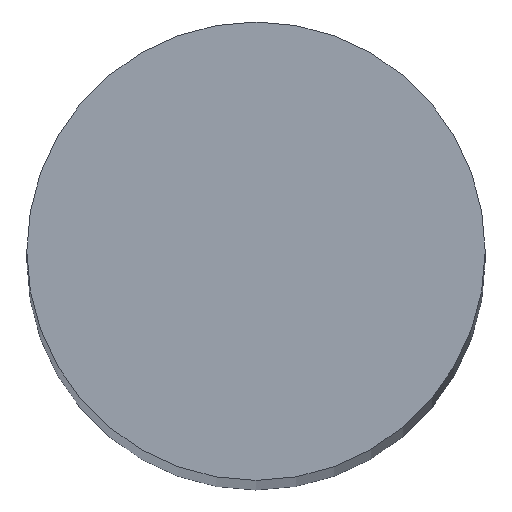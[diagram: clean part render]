
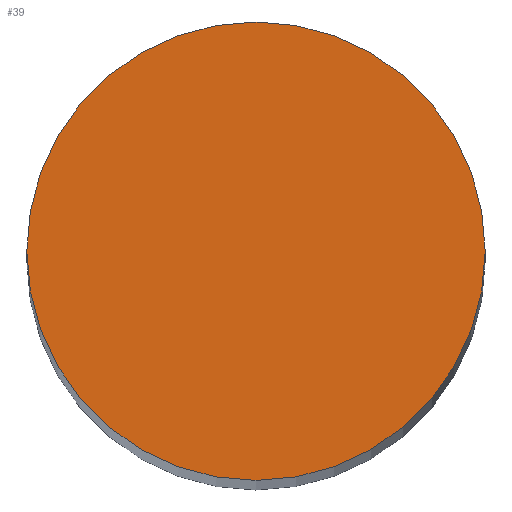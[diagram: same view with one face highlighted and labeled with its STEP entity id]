
A CAD part, top view. The second image highlights one B-rep face of the part: STEP entity #39.
In plain terms, the highlighted planar face has unit normal (0, 0, 1).
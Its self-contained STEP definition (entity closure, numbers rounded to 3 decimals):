
#18=FACE_OUTER_BOUND('',#21,.T.);
#21=EDGE_LOOP('',(#31));
#24=CIRCLE('',#57,12.5);
#26=VERTEX_POINT('',#76);
#28=EDGE_CURVE('',#26,#26,#24,.T.);
#31=ORIENTED_EDGE('',*,*,#28,.F.);
#37=PLANE('',#56);
#39=ADVANCED_FACE('',(#18),#37,.T.);
#56=AXIS2_PLACEMENT_3D('',#75,#63,#64);
#57=AXIS2_PLACEMENT_3D('',#77,#65,#66);
#63=DIRECTION('center_axis',(0.,0.,1.));
#64=DIRECTION('ref_axis',(1.,0.,0.));
#65=DIRECTION('center_axis',(0.,0.,-1.));
#66=DIRECTION('ref_axis',(1.,0.,0.));
#75=CARTESIAN_POINT('Origin',(0.,0.,300.));
#76=CARTESIAN_POINT('',(-12.5,0.,300.));
#77=CARTESIAN_POINT('Origin',(0.,0.,300.));
